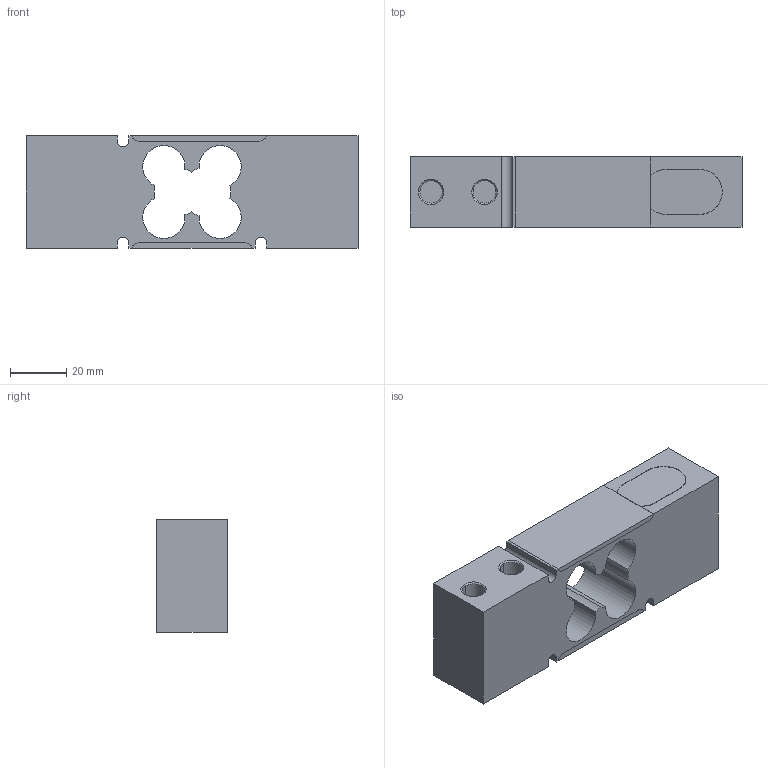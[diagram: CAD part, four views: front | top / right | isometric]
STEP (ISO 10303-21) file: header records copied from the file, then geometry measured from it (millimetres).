
FILE_DESCRIPTION((''),'1');
FILE_NAME('LCLK_150_kg.step','2021-11-23T07:36:29',(''),(''),'','','');
FILE_SCHEMA(('AUTOMOTIVE_DESIGN { 1 0 10303 214 1 1 1 1 }'));
Products named in the file (4): LCLK 150_kg; LCLK body 01; LCLK part 02; LCLK part 03
Assembly tree (3 placements, depth 2):
  LCLK 150_kg
    LCLK body 01
    LCLK part 02
    LCLK part 03
Bounding box: 118 x 25 x 40 mm (x, y, z)
Volume: 91320 mm3; surface area: 26687.8 mm2
Topology: 3 solids, 3 shells, 97 faces, 250 edges, 164 vertices
Faces by surface type: cylinder 49, plane 40, cone 8
Entity records: 3104 total; most frequent: DIRECTION 558, CARTESIAN_POINT 521, ORIENTED_EDGE 500, EDGE_CURVE 250, AXIS2_PLACEMENT_3D 209, VERTEX_POINT 164, LINE 140, VECTOR 140
